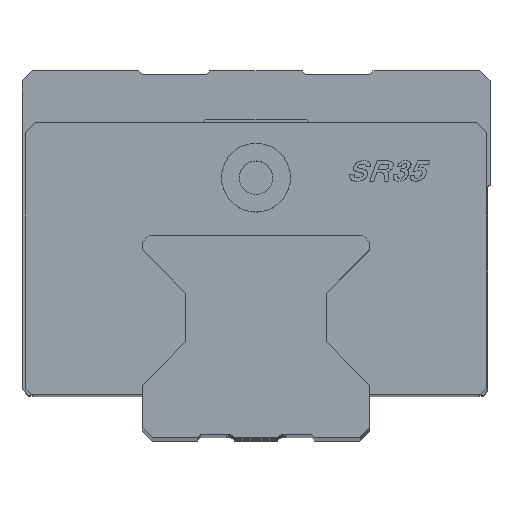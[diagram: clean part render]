
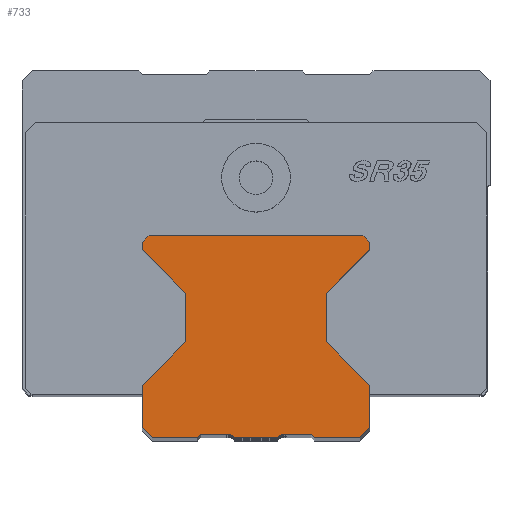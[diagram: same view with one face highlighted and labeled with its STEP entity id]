
A CAD part, top view. The second image highlights one B-rep face of the part: STEP entity #733.
In plain terms, the highlighted planar face has unit normal (0, 0, 1).
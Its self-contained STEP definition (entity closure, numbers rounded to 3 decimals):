
#459=FACE_OUTER_BOUND('',#1464,.T.);
#733=ADVANCED_FACE('',(#459),#883,.T.);
#883=PLANE('',#5613);
#1464=EDGE_LOOP('',(#3770,#3771,#3772,#3773,#3774,#3775,#3776,#3777,#3778,
#3779,#3780,#3781,#3782,#3783,#3784,#3785,#3786,#3787,#3788,#3789,#3790,
#3791,#3792,#3793));
#1806=LINE('',#9029,#2303);
#1808=LINE('',#9033,#2305);
#1810=LINE('',#9037,#2307);
#1812=LINE('',#9041,#2309);
#1814=LINE('',#9045,#2311);
#1816=LINE('',#9063,#2313);
#1818=LINE('',#9067,#2315);
#1820=LINE('',#9071,#2317);
#1822=LINE('',#9075,#2319);
#1824=LINE('',#9079,#2321);
#1826=LINE('',#9083,#2323);
#1828=LINE('',#9087,#2325);
#1830=LINE('',#9091,#2327);
#1832=LINE('',#9095,#2329);
#1837=LINE('',#9109,#2334);
#1848=LINE('',#9205,#2345);
#1861=LINE('',#9257,#2358);
#1870=LINE('',#9299,#2367);
#1871=LINE('',#9320,#2368);
#1872=LINE('',#9329,#2369);
#1873=LINE('',#9331,#2370);
#1874=LINE('',#9333,#2371);
#1875=LINE('',#9335,#2372);
#1876=LINE('',#9337,#2373);
#2303=VECTOR('',#6401,1.);
#2305=VECTOR('',#6405,1.);
#2307=VECTOR('',#6409,1.);
#2309=VECTOR('',#6413,1.);
#2311=VECTOR('',#6417,1.);
#2313=VECTOR('',#6435,1.);
#2315=VECTOR('',#6439,1.);
#2317=VECTOR('',#6443,1.);
#2319=VECTOR('',#6447,1.);
#2321=VECTOR('',#6451,1.);
#2323=VECTOR('',#6455,1.);
#2325=VECTOR('',#6459,1.);
#2327=VECTOR('',#6463,1.);
#2329=VECTOR('',#6467,1.);
#2334=VECTOR('',#6478,1.);
#2345=VECTOR('',#6581,1.);
#2358=VECTOR('',#6636,1.);
#2367=VECTOR('',#6685,1.);
#2368=VECTOR('',#6726,1.);
#2369=VECTOR('',#6743,1.);
#2370=VECTOR('',#6744,1.);
#2371=VECTOR('',#6745,1.);
#2372=VECTOR('',#6746,1.);
#2373=VECTOR('',#6747,1.);
#3770=ORIENTED_EDGE('',*,*,#5028,.T.);
#3771=ORIENTED_EDGE('',*,*,#5029,.T.);
#3772=ORIENTED_EDGE('',*,*,#5030,.T.);
#3773=ORIENTED_EDGE('',*,*,#5031,.T.);
#3774=ORIENTED_EDGE('',*,*,#5032,.T.);
#3775=ORIENTED_EDGE('',*,*,#4966,.T.);
#3776=ORIENTED_EDGE('',*,*,#4992,.T.);
#3777=ORIENTED_EDGE('',*,*,#5013,.T.);
#3778=ORIENTED_EDGE('',*,*,#5026,.T.);
#3779=ORIENTED_EDGE('',*,*,#4925,.T.);
#3780=ORIENTED_EDGE('',*,*,#4918,.T.);
#3781=ORIENTED_EDGE('',*,*,#4916,.T.);
#3782=ORIENTED_EDGE('',*,*,#4914,.T.);
#3783=ORIENTED_EDGE('',*,*,#4912,.T.);
#3784=ORIENTED_EDGE('',*,*,#4910,.T.);
#3785=ORIENTED_EDGE('',*,*,#4908,.T.);
#3786=ORIENTED_EDGE('',*,*,#4906,.T.);
#3787=ORIENTED_EDGE('',*,*,#4904,.T.);
#3788=ORIENTED_EDGE('',*,*,#4902,.T.);
#3789=ORIENTED_EDGE('',*,*,#4893,.T.);
#3790=ORIENTED_EDGE('',*,*,#4891,.T.);
#3791=ORIENTED_EDGE('',*,*,#4889,.T.);
#3792=ORIENTED_EDGE('',*,*,#4887,.T.);
#3793=ORIENTED_EDGE('',*,*,#4885,.T.);
#4218=VERTEX_POINT('',#9028);
#4219=VERTEX_POINT('',#9030);
#4220=VERTEX_POINT('',#9034);
#4221=VERTEX_POINT('',#9038);
#4222=VERTEX_POINT('',#9042);
#4223=VERTEX_POINT('',#9046);
#4231=VERTEX_POINT('',#9064);
#4232=VERTEX_POINT('',#9068);
#4233=VERTEX_POINT('',#9072);
#4234=VERTEX_POINT('',#9076);
#4235=VERTEX_POINT('',#9080);
#4236=VERTEX_POINT('',#9084);
#4237=VERTEX_POINT('',#9088);
#4238=VERTEX_POINT('',#9092);
#4239=VERTEX_POINT('',#9096);
#4245=VERTEX_POINT('',#9110);
#4283=VERTEX_POINT('',#9204);
#4284=VERTEX_POINT('',#9206);
#4301=VERTEX_POINT('',#9256);
#4314=VERTEX_POINT('',#9298);
#4315=VERTEX_POINT('',#9330);
#4316=VERTEX_POINT('',#9332);
#4317=VERTEX_POINT('',#9334);
#4318=VERTEX_POINT('',#9336);
#4885=EDGE_CURVE('',#4219,#4218,#1806,.T.);
#4887=EDGE_CURVE('',#4220,#4219,#1808,.T.);
#4889=EDGE_CURVE('',#4221,#4220,#1810,.T.);
#4891=EDGE_CURVE('',#4222,#4221,#1812,.T.);
#4893=EDGE_CURVE('',#4223,#4222,#1814,.T.);
#4902=EDGE_CURVE('',#4231,#4223,#1816,.T.);
#4904=EDGE_CURVE('',#4232,#4231,#1818,.T.);
#4906=EDGE_CURVE('',#4233,#4232,#1820,.T.);
#4908=EDGE_CURVE('',#4234,#4233,#1822,.T.);
#4910=EDGE_CURVE('',#4235,#4234,#1824,.T.);
#4912=EDGE_CURVE('',#4236,#4235,#1826,.T.);
#4914=EDGE_CURVE('',#4237,#4236,#1828,.T.);
#4916=EDGE_CURVE('',#4238,#4237,#1830,.T.);
#4918=EDGE_CURVE('',#4239,#4238,#1832,.T.);
#4925=EDGE_CURVE('',#4245,#4239,#1837,.T.);
#4966=EDGE_CURVE('',#4284,#4283,#1848,.T.);
#4992=EDGE_CURVE('',#4283,#4301,#1861,.T.);
#5013=EDGE_CURVE('',#4301,#4314,#1870,.T.);
#5026=EDGE_CURVE('',#4314,#4245,#1871,.T.);
#5028=EDGE_CURVE('',#4218,#4315,#1872,.T.);
#5029=EDGE_CURVE('',#4315,#4316,#1873,.T.);
#5030=EDGE_CURVE('',#4316,#4317,#1874,.T.);
#5031=EDGE_CURVE('',#4317,#4318,#1875,.T.);
#5032=EDGE_CURVE('',#4318,#4284,#1876,.T.);
#5613=AXIS2_PLACEMENT_3D('',#9338,#6748,#6749);
#6401=DIRECTION('',(0.,-1.,0.));
#6405=DIRECTION('',(0.707,-0.707,0.));
#6409=DIRECTION('',(0.,-1.,0.));
#6413=DIRECTION('',(-0.707,-0.707,0.));
#6417=DIRECTION('',(-1.,0.,0.));
#6435=DIRECTION('',(-0.707,0.707,0.));
#6439=DIRECTION('',(0.,1.,0.));
#6443=DIRECTION('',(0.707,0.707,0.));
#6447=DIRECTION('',(0.,1.,0.));
#6451=DIRECTION('',(-0.707,0.707,0.));
#6455=DIRECTION('',(0.,1.,0.));
#6459=DIRECTION('',(0.707,0.707,0.));
#6463=DIRECTION('',(1.,0.,0.));
#6467=DIRECTION('',(0.707,-0.707,0.));
#6478=DIRECTION('',(1.,0.,0.));
#6581=DIRECTION('',(1.,0.,0.));
#6636=DIRECTION('',(0.707,-0.707,0.));
#6685=DIRECTION('',(1.,0.,0.));
#6726=DIRECTION('',(0.707,0.707,0.));
#6743=DIRECTION('',(-0.707,-0.707,0.));
#6744=DIRECTION('',(0.,-1.,0.));
#6745=DIRECTION('',(0.707,-0.707,0.));
#6746=DIRECTION('',(1.,0.,0.));
#6747=DIRECTION('',(0.707,0.707,0.));
#6748=DIRECTION('',(0.,0.,1.));
#6749=DIRECTION('',(1.,0.,0.));
#9028=CARTESIAN_POINT('',(-10.5,14.31,150.));
#9029=CARTESIAN_POINT('',(-10.5,21.6,150.));
#9030=CARTESIAN_POINT('',(-10.5,21.6,150.));
#9033=CARTESIAN_POINT('',(-17.,28.1,150.));
#9034=CARTESIAN_POINT('',(-17.,28.1,150.));
#9037=CARTESIAN_POINT('',(-17.,29.2,150.));
#9038=CARTESIAN_POINT('',(-17.,29.2,150.));
#9041=CARTESIAN_POINT('',(-16.,30.2,150.));
#9042=CARTESIAN_POINT('',(-16.,30.2,150.));
#9045=CARTESIAN_POINT('',(16.,30.2,150.));
#9046=CARTESIAN_POINT('',(16.,30.2,150.));
#9063=CARTESIAN_POINT('',(17.,29.2,150.));
#9064=CARTESIAN_POINT('',(17.,29.2,150.));
#9067=CARTESIAN_POINT('',(17.,28.1,150.));
#9068=CARTESIAN_POINT('',(17.,28.1,150.));
#9071=CARTESIAN_POINT('',(10.5,21.6,150.));
#9072=CARTESIAN_POINT('',(10.5,21.6,150.));
#9075=CARTESIAN_POINT('',(10.5,14.31,150.));
#9076=CARTESIAN_POINT('',(10.5,14.31,150.));
#9079=CARTESIAN_POINT('',(17.,7.81,150.));
#9080=CARTESIAN_POINT('',(17.,7.81,150.));
#9083=CARTESIAN_POINT('',(17.,1.5,150.));
#9084=CARTESIAN_POINT('',(17.,1.5,150.));
#9087=CARTESIAN_POINT('',(15.5,0.,150.));
#9088=CARTESIAN_POINT('',(15.5,0.,150.));
#9091=CARTESIAN_POINT('',(8.75,0.,150.));
#9092=CARTESIAN_POINT('',(8.75,0.,150.));
#9095=CARTESIAN_POINT('',(8.25,0.5,150.));
#9096=CARTESIAN_POINT('',(8.25,0.5,150.));
#9109=CARTESIAN_POINT('',(3.75,0.5,150.));
#9110=CARTESIAN_POINT('',(3.75,0.5,150.));
#9204=CARTESIAN_POINT('',(-3.75,0.5,150.));
#9205=CARTESIAN_POINT('',(-8.25,0.5,150.));
#9206=CARTESIAN_POINT('',(-8.25,0.5,150.));
#9256=CARTESIAN_POINT('',(-3.25,0.,150.));
#9257=CARTESIAN_POINT('',(-3.75,0.5,150.));
#9298=CARTESIAN_POINT('',(3.25,0.,150.));
#9299=CARTESIAN_POINT('',(-3.25,0.,150.));
#9320=CARTESIAN_POINT('',(3.25,0.,150.));
#9329=CARTESIAN_POINT('',(-10.5,14.31,150.));
#9330=CARTESIAN_POINT('',(-17.,7.81,150.));
#9331=CARTESIAN_POINT('',(-17.,7.81,150.));
#9332=CARTESIAN_POINT('',(-17.,1.5,150.));
#9333=CARTESIAN_POINT('',(-17.,1.5,150.));
#9334=CARTESIAN_POINT('',(-15.5,0.,150.));
#9335=CARTESIAN_POINT('',(-15.5,0.,150.));
#9336=CARTESIAN_POINT('',(-8.75,0.,150.));
#9337=CARTESIAN_POINT('',(-8.75,0.,150.));
#9338=CARTESIAN_POINT('',(-18.7,-1.51,150.));
